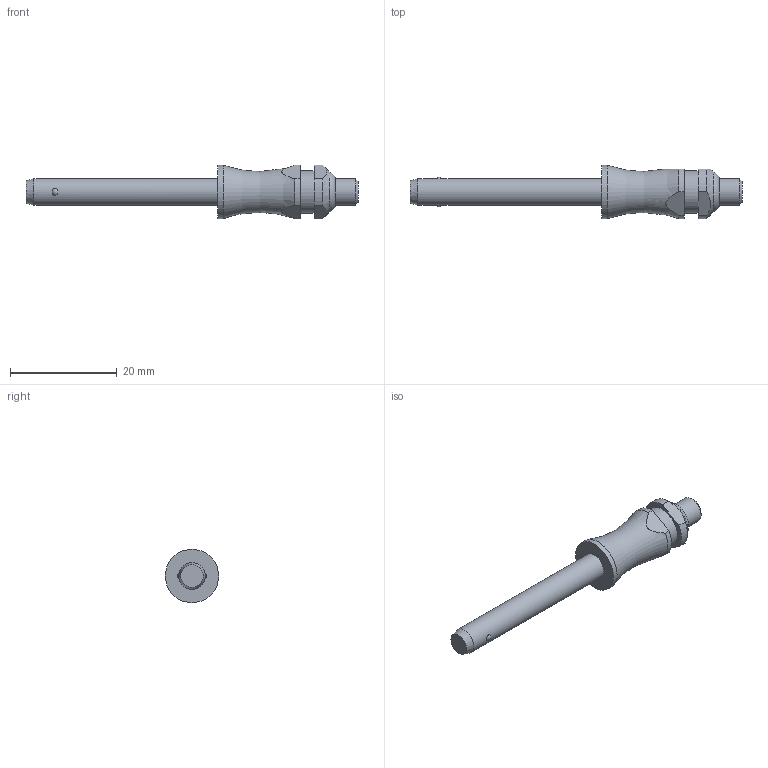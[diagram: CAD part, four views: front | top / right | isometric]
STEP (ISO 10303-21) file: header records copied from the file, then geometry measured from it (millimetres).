
FILE_DESCRIPTION( ( 'STEP AP203' ), '1' );
FILE_NAME( 'C:/Temp/Ganter_Step_05_03_2020/data/3_1/gn113_3/Stainless Steel-Ball lock pin GN 113.3-5-30 (deactivated).stp', '2020-03-12T08:18:10', ( 'License CC BY-ND 4.0' ), ( 'CADENAS' ), ' ', 'PARTsolutions', ' ' );
FILE_SCHEMA( ( 'CONFIG_CONTROL_DESIGN' ) );
Length unit declared in the file: millimetre
Products named in the file (1): _Stainless Steel-Ball lock pin GN 113.3-5-30 (deactivated)
Bounding box: 62.3 x 10 x 10 mm (x, y, z)
Volume: 2043.4 mm3; surface area: 1385 mm2
Topology: 1 solids, 1 shells, 29 faces, 61 edges, 40 vertices
Faces by surface type: plane 12, cylinder 10, cone 3, torus 2, sphere 2
Full cylindrical faces by diameter (mm): 5 x2, 7.9 x1, 10 x1
Entity records: 902 total; most frequent: CARTESIAN_POINT 272, DIRECTION 126, ORIENTED_EDGE 100, AXIS2_PLACEMENT_3D 54, EDGE_CURVE 50, EDGE_LOOP 44, VERTEX_POINT 38, FACE_OUTER_BOUND 35
